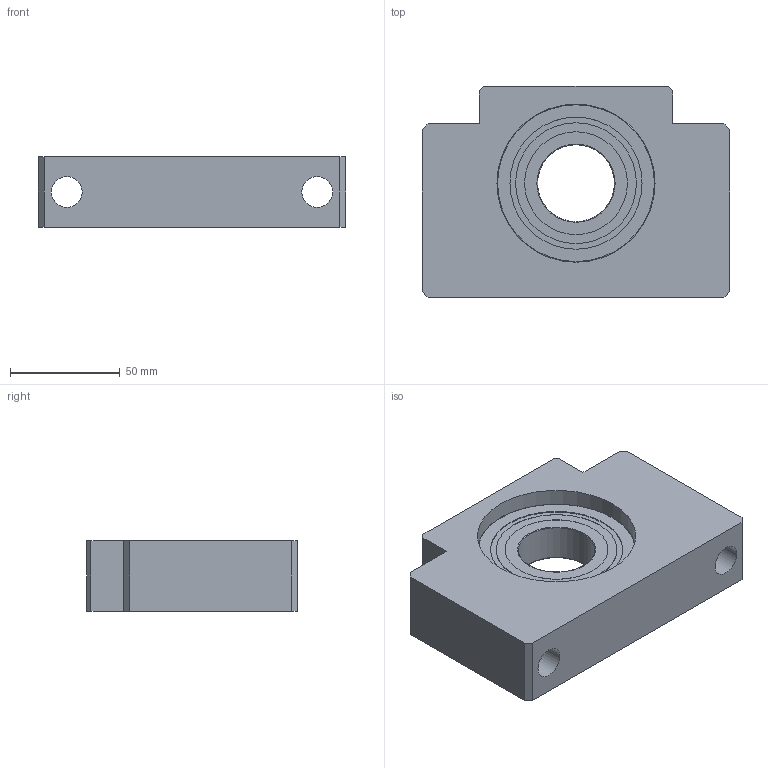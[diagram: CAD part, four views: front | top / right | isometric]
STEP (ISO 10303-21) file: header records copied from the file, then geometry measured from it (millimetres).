
FILE_DESCRIPTION(/* description */ ('STEP AP214'),/* implementation_level */ '2;1');
FILE_NAME(/* name */ 'BF35',/* time_stamp */ '2026-09-17T13:14:18+02:00',/* author */ ('License CC BY-ND 4.0'),/* organization */ ('CADENAS'),/* preprocessor_version */ 'ST-DEVELOPER v20',/* originating_system */ 'PARTsolutions',/* authorisation */ ' ');
FILE_SCHEMA (('AUTOMOTIVE_DESIGN {1 0 10303 214 3 1 1}'));
Length unit declared in the file: millimetre
Products named in the file (3): BF35; BF 35 Part1; BF 35 Part2
Assembly tree (2 placements, depth 2):
  BF35
    BF 35 Part1
    BF 35 Part2
Bounding box: 140 x 96 x 32 mm (x, y, z)
Volume: 294926.3 mm3; surface area: 57932.2 mm2
Topology: 2 solids, 2 shells, 43 faces, 90 edges, 59 vertices
Faces by surface type: plane 26, cylinder 13, torus 4
Full cylindrical faces by diameter (mm): 14 x2, 20 x2, 35 x1, 46.8 x2, 55 x2, 60.16 x2, 72 x2
Entity records: 1147 total; most frequent: DIRECTION 194, CARTESIAN_POINT 176, ORIENTED_EDGE 144, EDGE_LOOP 76, FACE_BOUND 76, AXIS2_PLACEMENT_3D 76, EDGE_CURVE 72, VERTEX_POINT 58
